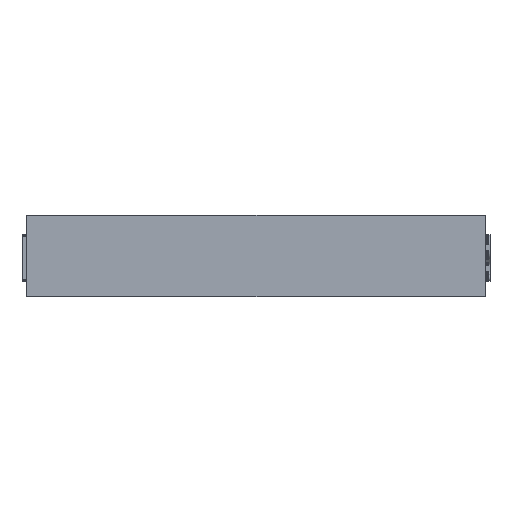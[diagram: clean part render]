
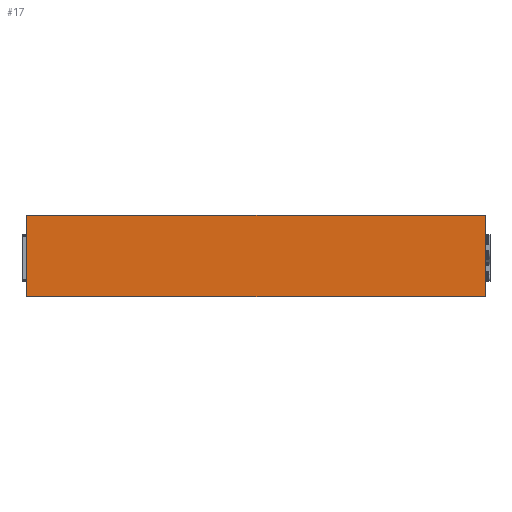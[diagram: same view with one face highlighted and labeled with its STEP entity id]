
A CAD part, left-side view. The second image highlights one B-rep face of the part: STEP entity #17.
In plain terms, the highlighted planar face has unit normal (-1, 0, 0).
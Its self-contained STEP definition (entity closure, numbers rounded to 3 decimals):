
#17 = ADVANCED_FACE('',(#18),#32,.F.);
#18 = FACE_BOUND('',#19,.F.);
#19 = EDGE_LOOP('',(#20,#55,#83,#111));
#20 = ORIENTED_EDGE('',*,*,#21,.F.);
#21 = EDGE_CURVE('',#22,#24,#26,.T.);
#22 = VERTEX_POINT('',#23);
#23 = CARTESIAN_POINT('',(-2.25,-2.25,20.4));
#24 = VERTEX_POINT('',#25);
#25 = CARTESIAN_POINT('',(-2.25,-2.25,30.8));
#26 = SURFACE_CURVE('',#27,(#31,#43),.PCURVE_S1.);
#27 = LINE('',#28,#29);
#28 = CARTESIAN_POINT('',(-2.25,-2.25,20.4));
#29 = VECTOR('',#30,1.);
#30 = DIRECTION('',(0.,0.,1.));
#31 = PCURVE('',#32,#37);
#32 = PLANE('',#33);
#33 = AXIS2_PLACEMENT_3D('',#34,#35,#36);
#34 = CARTESIAN_POINT('',(-2.25,-2.25,28.4));
#35 = DIRECTION('',(1.,0.,-0.));
#36 = DIRECTION('',(0.,0.,1.));
#37 = DEFINITIONAL_REPRESENTATION('',(#38),#42);
#38 = LINE('',#39,#40);
#39 = CARTESIAN_POINT('',(-8.,0.));
#40 = VECTOR('',#41,1.);
#41 = DIRECTION('',(1.,0.));
#42 = ( GEOMETRIC_REPRESENTATION_CONTEXT(2) 
PARAMETRIC_REPRESENTATION_CONTEXT() REPRESENTATION_CONTEXT('2D SPACE',''
  ) );
#43 = PCURVE('',#44,#49);
#44 = PLANE('',#45);
#45 = AXIS2_PLACEMENT_3D('',#46,#47,#48);
#46 = CARTESIAN_POINT('',(-2.25,-2.25,28.4));
#47 = DIRECTION('',(-0.,1.,0.));
#48 = DIRECTION('',(0.,0.,1.));
#49 = DEFINITIONAL_REPRESENTATION('',(#50),#54);
#50 = LINE('',#51,#52);
#51 = CARTESIAN_POINT('',(-8.,0.));
#52 = VECTOR('',#53,1.);
#53 = DIRECTION('',(1.,0.));
#54 = ( GEOMETRIC_REPRESENTATION_CONTEXT(2) 
PARAMETRIC_REPRESENTATION_CONTEXT() REPRESENTATION_CONTEXT('2D SPACE',''
  ) );
#55 = ORIENTED_EDGE('',*,*,#56,.T.);
#56 = EDGE_CURVE('',#22,#57,#59,.T.);
#57 = VERTEX_POINT('',#58);
#58 = CARTESIAN_POINT('',(-2.25,56.25,20.4));
#59 = SURFACE_CURVE('',#60,(#64,#71),.PCURVE_S1.);
#60 = LINE('',#61,#62);
#61 = CARTESIAN_POINT('',(-2.25,-2.25,20.4));
#62 = VECTOR('',#63,1.);
#63 = DIRECTION('',(-0.,1.,0.));
#64 = PCURVE('',#32,#65);
#65 = DEFINITIONAL_REPRESENTATION('',(#66),#70);
#66 = LINE('',#67,#68);
#67 = CARTESIAN_POINT('',(-8.,0.));
#68 = VECTOR('',#69,1.);
#69 = DIRECTION('',(0.,-1.));
#70 = ( GEOMETRIC_REPRESENTATION_CONTEXT(2) 
PARAMETRIC_REPRESENTATION_CONTEXT() REPRESENTATION_CONTEXT('2D SPACE',''
  ) );
#71 = PCURVE('',#72,#77);
#72 = PLANE('',#73);
#73 = AXIS2_PLACEMENT_3D('',#74,#75,#76);
#74 = CARTESIAN_POINT('',(-2.25,-2.25,20.4));
#75 = DIRECTION('',(0.,0.,1.));
#76 = DIRECTION('',(1.,0.,-0.));
#77 = DEFINITIONAL_REPRESENTATION('',(#78),#82);
#78 = LINE('',#79,#80);
#79 = CARTESIAN_POINT('',(0.,0.));
#80 = VECTOR('',#81,1.);
#81 = DIRECTION('',(0.,1.));
#82 = ( GEOMETRIC_REPRESENTATION_CONTEXT(2) 
PARAMETRIC_REPRESENTATION_CONTEXT() REPRESENTATION_CONTEXT('2D SPACE',''
  ) );
#83 = ORIENTED_EDGE('',*,*,#84,.F.);
#84 = EDGE_CURVE('',#85,#57,#87,.T.);
#85 = VERTEX_POINT('',#86);
#86 = CARTESIAN_POINT('',(-2.25,56.25,30.8));
#87 = SURFACE_CURVE('',#88,(#92,#99),.PCURVE_S1.);
#88 = LINE('',#89,#90);
#89 = CARTESIAN_POINT('',(-2.25,56.25,30.8));
#90 = VECTOR('',#91,1.);
#91 = DIRECTION('',(0.,0.,-1.));
#92 = PCURVE('',#32,#93);
#93 = DEFINITIONAL_REPRESENTATION('',(#94),#98);
#94 = LINE('',#95,#96);
#95 = CARTESIAN_POINT('',(2.4,-58.5));
#96 = VECTOR('',#97,1.);
#97 = DIRECTION('',(-1.,0.));
#98 = ( GEOMETRIC_REPRESENTATION_CONTEXT(2) 
PARAMETRIC_REPRESENTATION_CONTEXT() REPRESENTATION_CONTEXT('2D SPACE',''
  ) );
#99 = PCURVE('',#100,#105);
#100 = PLANE('',#101);
#101 = AXIS2_PLACEMENT_3D('',#102,#103,#104);
#102 = CARTESIAN_POINT('',(-2.25,56.25,28.4));
#103 = DIRECTION('',(-0.,1.,0.));
#104 = DIRECTION('',(0.,0.,1.));
#105 = DEFINITIONAL_REPRESENTATION('',(#106),#110);
#106 = LINE('',#107,#108);
#107 = CARTESIAN_POINT('',(2.4,0.));
#108 = VECTOR('',#109,1.);
#109 = DIRECTION('',(-1.,0.));
#110 = ( GEOMETRIC_REPRESENTATION_CONTEXT(2) 
PARAMETRIC_REPRESENTATION_CONTEXT() REPRESENTATION_CONTEXT('2D SPACE',''
  ) );
#111 = ORIENTED_EDGE('',*,*,#112,.F.);
#112 = EDGE_CURVE('',#24,#85,#113,.T.);
#113 = SURFACE_CURVE('',#114,(#118,#125),.PCURVE_S1.);
#114 = LINE('',#115,#116);
#115 = CARTESIAN_POINT('',(-2.25,-2.25,30.8));
#116 = VECTOR('',#117,1.);
#117 = DIRECTION('',(-0.,1.,0.));
#118 = PCURVE('',#32,#119);
#119 = DEFINITIONAL_REPRESENTATION('',(#120),#124);
#120 = LINE('',#121,#122);
#121 = CARTESIAN_POINT('',(2.4,0.));
#122 = VECTOR('',#123,1.);
#123 = DIRECTION('',(0.,-1.));
#124 = ( GEOMETRIC_REPRESENTATION_CONTEXT(2) 
PARAMETRIC_REPRESENTATION_CONTEXT() REPRESENTATION_CONTEXT('2D SPACE',''
  ) );
#125 = PCURVE('',#126,#131);
#126 = PLANE('',#127);
#127 = AXIS2_PLACEMENT_3D('',#128,#129,#130);
#128 = CARTESIAN_POINT('',(-2.25,-2.25,30.8));
#129 = DIRECTION('',(0.,0.,1.));
#130 = DIRECTION('',(1.,0.,-0.));
#131 = DEFINITIONAL_REPRESENTATION('',(#132),#136);
#132 = LINE('',#133,#134);
#133 = CARTESIAN_POINT('',(0.,0.));
#134 = VECTOR('',#135,1.);
#135 = DIRECTION('',(0.,1.));
#136 = ( GEOMETRIC_REPRESENTATION_CONTEXT(2) 
PARAMETRIC_REPRESENTATION_CONTEXT() REPRESENTATION_CONTEXT('2D SPACE',''
  ) );
